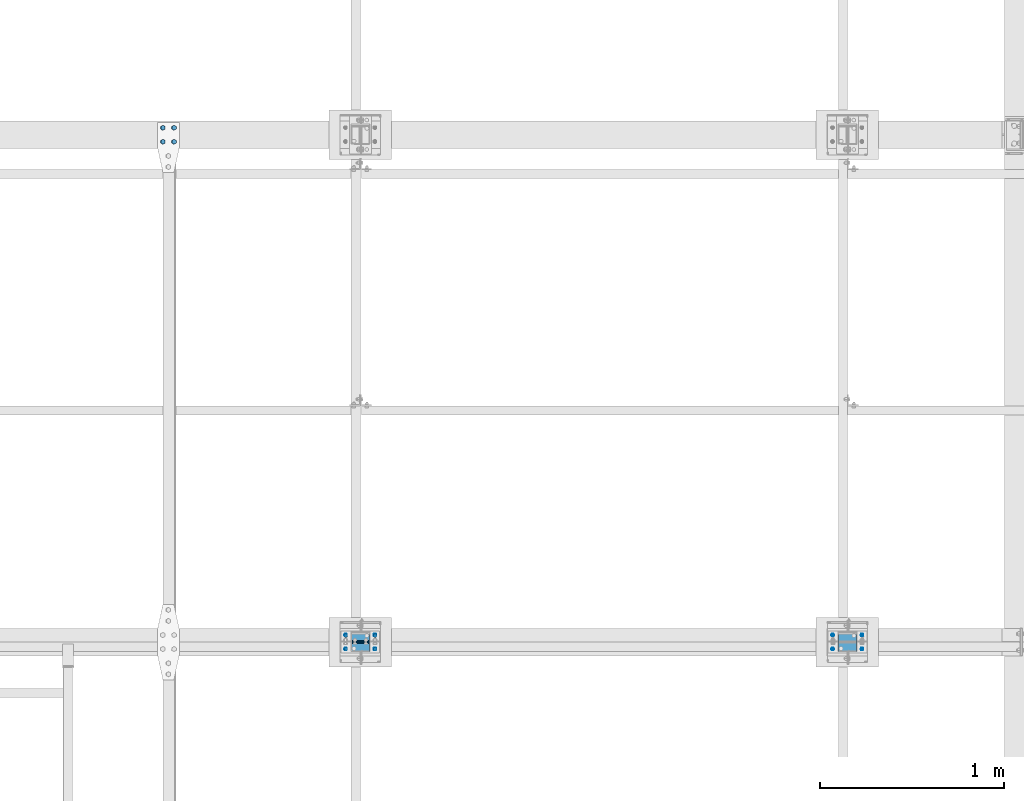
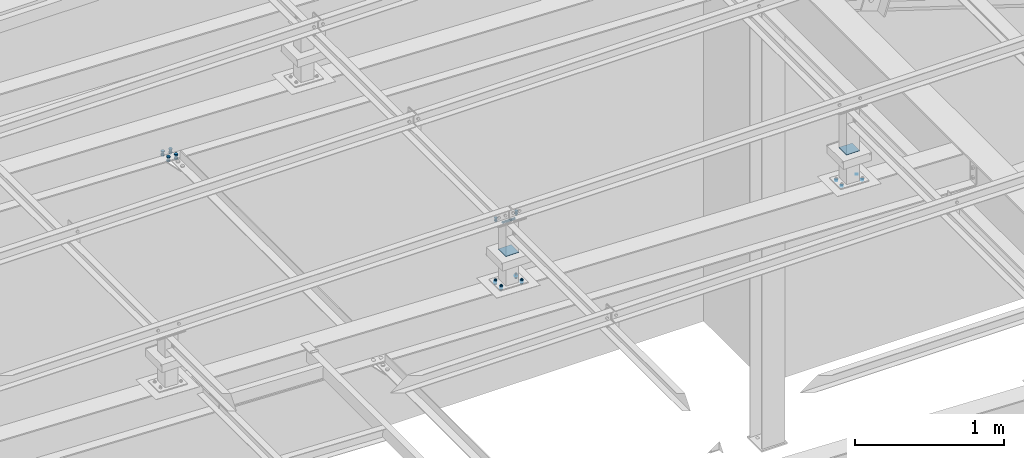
# One storey, part 214 of 3134: 8 mechanical fasteners, 6 elements without a shape of their own.
"""IFC2X3 building model written with IfcOpenShell, lengths in millimetres."""

import ifcopenshell
import ifcopenshell.guid

model = None  # the IFC model being written
_history = None  # IfcOwnerHistory: only IFC2X3 demands one
_inside = {}  # id of a spatial element -> (the spatial element, [elements in it])
_under = {}  # id of a project, library or spatial element -> (it, [spatial elements below it])
_declared = {}  # id of a project -> (the project, [libraries it declares])
_typed = {}  # id of a type object -> (the type object, [elements of that type])
_made_of = {}  # id of a material, layer set ... -> (it, [elements and type objects made of it])


def new_model(schema):
    """Start an empty IFC model of exactly this schema.

    Asked for "IFC4X3", IfcOpenShell would pick the latest addendum, in which some entities
    have other attributes; the version numbers below select the first issue.
    IFC2X3 requires an IfcOwnerHistory on every rooted entity: one is made here for all.
    """
    global model, _history
    if schema == "IFC4X3":
        model = ifcopenshell.file(schema_version=(4, 3, 0, 0))
    else:
        model = ifcopenshell.file(schema=schema)
    _inside.clear()
    _under.clear()
    _declared.clear()
    _typed.clear()
    _made_of.clear()
    _history = None
    if model.schema == "IFC2X3":
        org = make("IfcOrganization", Name="unknown")
        user = make(
            "IfcPersonAndOrganization",
            ThePerson=make("IfcPerson", FamilyName="unknown"),
            TheOrganization=org,
        )
        app = make(
            "IfcApplication",
            ApplicationDeveloper=org,
            Version="unknown",
            ApplicationFullName="unknown",
            ApplicationIdentifier="unknown",
        )
        _history = make(
            "IfcOwnerHistory",
            OwningUser=user,
            OwningApplication=app,
            ChangeAction="ADDED",
            CreationDate=0,
        )
    return model


def make(cls, **values):
    """One entity of the class cls with the attributes given. An attribute that is None is left unset."""
    return model.create_entity(
        cls, **{name: value for name, value in values.items() if value is not None}
    )


def rooted(cls, **values):
    """An entity with a GlobalId (a new one), such as an element, a storey or a relation."""
    return make(cls, GlobalId=ifcopenshell.guid.new(), OwnerHistory=_history, **values)


def si_unit(unit_type, name, prefix=None):
    """IfcSIUnit, for example si_unit("LENGTHUNIT", "METRE", prefix="MILLI")."""
    return make("IfcSIUnit", UnitType=unit_type, Prefix=prefix, Name=name)


def assignment(units):
    """IfcUnitAssignment: the units of a project."""
    return None if units is None else make("IfcUnitAssignment", Units=units)


def point(xyz):
    """IfcCartesianPoint."""
    return None if xyz is None else make("IfcCartesianPoint", Coordinates=xyz)


def direction(xyz):
    """IfcDirection."""
    return None if xyz is None else make("IfcDirection", DirectionRatios=xyz)


def frame(location, z_axis=None, x_axis=None):
    """IfcAxis2Placement3D, a coordinate frame: its origin and axes. An axis left out is left unset."""
    return make(
        "IfcAxis2Placement3D",
        Location=point(location),
        Axis=direction(z_axis),
        RefDirection=direction(x_axis),
    )


def origin_with_axes():
    """The frame at (0, 0, 0) with the z axis (0, 0, 1) and the x axis (1, 0, 0) written out."""
    return frame((0.0, 0.0, 0.0), z_axis=(0.0, 0.0, 1.0), x_axis=(1.0, 0.0, 0.0))


def place(relative_to, where):
    """IfcLocalPlacement: puts the frame where relative to a parent placement (None: the world)."""
    return make(
        "IfcLocalPlacement", PlacementRelTo=relative_to, RelativePlacement=where
    )


def context(
    kind, dimensions, precision=None, world=None, true_north=None, identifier=None
):
    """IfcGeometricRepresentationContext, for example the 3D "Model" context."""
    return make(
        "IfcGeometricRepresentationContext",
        ContextIdentifier=identifier,
        ContextType=kind,
        CoordinateSpaceDimension=dimensions,
        Precision=precision,
        WorldCoordinateSystem=world,
        TrueNorth=true_north,
    )


def subcontext(parent, identifier, kind, view, scale=None):
    """IfcGeometricRepresentationSubContext, for example "Body" below "Model"."""
    return make(
        "IfcGeometricRepresentationSubContext",
        ContextIdentifier=identifier,
        ContextType=kind,
        ParentContext=parent,
        TargetScale=scale,
        TargetView=view,
    )


def project(units=None, contexts=None):
    """IfcProject with its units and contexts."""
    return rooted(
        "IfcProject",
        Name="project",
        RepresentationContexts=contexts,
        UnitsInContext=assignment(units),
    )


def spatial(cls, under=None, at=None, **own):
    """A site, building, storey or space (cls), placed at a placement, below another one or the project."""
    s = rooted(cls, ObjectPlacement=at, **own)
    if under is not None:
        _under.setdefault(under.id(), (under, []))[1].append(s)
    return s


def faces_of(points, faces, orient=None, outer=None):
    """IfcFace entities. A face is a list of loops; a loop is a list of indices into points, from 0.

    orient and outer hold one flag for each loop. By default every Orientation is true, the
    first loop of a face is its IfcFaceOuterBound and the others are IfcFaceBound.
    """
    made = []
    for i, loops in enumerate(faces):
        bounds = []
        for j, loop in enumerate(loops):
            is_outer = j == 0 if outer is None else outer[i][j]
            bounds.append(
                make(
                    "IfcFaceOuterBound" if is_outer else "IfcFaceBound",
                    Bound=make("IfcPolyLoop", Polygon=[points[k] for k in loop]),
                    Orientation=True if orient is None else orient[i][j],
                )
            )
        made.append(make("IfcFace", Bounds=bounds))
    return made


def faceted_brep(points, faces, orient=None, outer=None, voids=None):
    """IfcFacetedBrep: a solid bounded by flat faces; with voids (closed shells), ...WithVoids."""
    shared = [point(p) for p in points]
    hull = make("IfcClosedShell", CfsFaces=faces_of(shared, faces, orient, outer))
    if voids is None:
        return make("IfcFacetedBrep", Outer=hull)
    return make(
        "IfcFacetedBrepWithVoids",
        Outer=hull,
        Voids=[
            make(cls, CfsFaces=faces_of(shared, fs, o, b)) for cls, fs, o, b in voids
        ],
    )


def shape(context_of_items, identifier, shape_type, items):
    """IfcShapeRepresentation: the items that make up one representation, for example the "Body"."""
    return make(
        "IfcShapeRepresentation",
        ContextOfItems=context_of_items,
        RepresentationIdentifier=identifier,
        RepresentationType=shape_type,
        Items=items,
    )


def source(mapping_origin, context_of_items, identifier, shape_type, items):
    """IfcRepresentationMap: a shape defined once, which mapped items show again and again."""
    return make(
        "IfcRepresentationMap",
        MappingOrigin=mapping_origin,
        MappedRepresentation=shape(context_of_items, identifier, shape_type, items),
    )


def transform(
    local_origin,
    x_axis=None,
    y_axis=None,
    z_axis=None,
    scale=None,
    scale2=None,
    scale3=None,
    uniform=True,
):
    """IfcCartesianTransformationOperator3D, or its non-uniform kind. x_axis, y_axis, z_axis: its Axis1, 2, 3."""
    if uniform:
        return make(
            "IfcCartesianTransformationOperator3D",
            Axis1=direction(x_axis),
            Axis2=direction(y_axis),
            LocalOrigin=point(local_origin),
            Scale=scale,
            Axis3=direction(z_axis),
        )
    return make(
        "IfcCartesianTransformationOperator3DnonUniform",
        Axis1=direction(x_axis),
        Axis2=direction(y_axis),
        LocalOrigin=point(local_origin),
        Scale=scale,
        Axis3=direction(z_axis),
        Scale2=scale2,
        Scale3=scale3,
    )


def mapped(mapping_source, mapping_target):
    """IfcMappedItem: shows the shape of a source again, moved by a transform."""
    return make(
        "IfcMappedItem", MappingSource=mapping_source, MappingTarget=mapping_target
    )


def material(Name=None, Category=None):
    """IfcMaterial."""
    return make("IfcMaterial", Name=Name, Category=Category)


def made_of(thing, what):
    """Note that an element or type object is made of a material, layer set ...; save() writes the relation."""
    if what is not None:
        _made_of.setdefault(what.id(), (what, []))[1].append(thing)
    return thing


def type_object(cls, material=None, **own):
    """A type object (cls), such as IfcWallType, which elements share."""
    return made_of(rooted(cls, **own), material)


def element(
    cls,
    number,
    at=None,
    inside=None,
    cuts=None,
    type_object=None,
    material=None,
    context=None,
    identifier="Body",
    shape_type=None,
    held_by="IfcProductDefinitionShape",
    body=None,
    shapes=None,
    **own,
):
    """One element of the class cls, such as IfcWall. Its Tag is "e" and its number.

    at: its placement. inside: the storey or other place that contains it. cuts: it is an
    opening in that element (IfcRelVoidsElement). A single representation is given by context,
    identifier, shape_type and body (its items); several are given by shapes. held_by: the class
    of the entity that holds the representations. save() writes the other relations.
    """
    e = rooted(cls, Tag="e%d" % number, ObjectPlacement=at, **own)
    if body is not None:
        shapes = [shape(context, identifier, shape_type, body)]
    if shapes is not None:
        e.Representation = make(held_by, Representations=shapes)
    if inside is not None:
        _inside.setdefault(inside.id(), (inside, []))[1].append(e)
    if cuts is not None:
        rooted(
            "IfcRelVoidsElement", RelatingBuildingElement=cuts, RelatedOpeningElement=e
        )
    if type_object is not None:
        _typed.setdefault(type_object.id(), (type_object, []))[1].append(e)
    return made_of(e, material)


def aggregate(whole, parts):
    """IfcRelAggregates: a whole, such as a stair, and the parts it consists of."""
    return rooted("IfcRelAggregates", RelatingObject=whole, RelatedObjects=parts)


def save(model, path):
    """Write the relations noted so far, then the file.

    IfcRelAggregates (storeys below a building ...), IfcRelContainedInSpatialStructure (elements
    in a storey), IfcRelDefinesByType, IfcRelAssociatesMaterial and IfcRelDeclares: one each for
    every whole, place, type object, material and project.
    """
    for whole, parts in _under.values():
        aggregate(whole, parts)
    for where, things in _inside.values():
        rooted(
            "IfcRelContainedInSpatialStructure",
            RelatedElements=things,
            RelatingStructure=where,
        )
    for kind, things in _typed.values():
        rooted("IfcRelDefinesByType", RelatedObjects=things, RelatingType=kind)
    for what, things in _made_of.values():
        rooted("IfcRelAssociatesMaterial", RelatedObjects=things, RelatingMaterial=what)
    for by, libraries in _declared.values():
        rooted("IfcRelDeclares", RelatingContext=by, RelatedDefinitions=libraries)
    model.write(path)


model = new_model("IFC2X3")

# Units and contexts
model_context = context("Model", 3, precision=1e-05, world=origin_with_axes())
body_context = subcontext(model_context, "Body", "Model", "MODEL_VIEW")
ifc_project = project(units=[si_unit("LENGTHUNIT", "METRE", prefix="MILLI"), si_unit("AREAUNIT", "SQUARE_METRE"), si_unit("VOLUMEUNIT", "CUBIC_METRE"), si_unit("MASSUNIT", "GRAM", prefix="KILO"), si_unit("TIMEUNIT", "SECOND"), si_unit("PLANEANGLEUNIT", "RADIAN"), si_unit("SOLIDANGLEUNIT", "STERADIAN"), si_unit("THERMODYNAMICTEMPERATUREUNIT", "DEGREE_CELSIUS"), si_unit("LUMINOUSINTENSITYUNIT", "LUMEN")], contexts=[model_context])

# Site, building, storey
site_placement = place(None, origin_with_axes())
site = spatial("IfcSite", under=ifc_project, at=site_placement, CompositionType="ELEMENT")
building_placement = place(site_placement, origin_with_axes())
building = spatial("IfcBuilding", under=site, at=building_placement, Name="Undefined", CompositionType="ELEMENT")
storey_placement = place(building_placement, origin_with_axes())
storey = spatial("IfcBuildingStorey", under=building, at=storey_placement, Name="Undefined", CompositionType="ELEMENT", Elevation=0.0)

# Assembly, mechanical fastener
assembly_1_placement = place(storey_placement, origin_with_axes())
assembly_1 = element("IfcElementAssembly", 1, at=assembly_1_placement, inside=storey, AssemblyPlace="NOTDEFINED", PredefinedType="RIGID_FRAME")
ifc_material_1 = material(Name="8.8")
mechanical_fastener_type = type_object("IfcMechanicalFastenerType", Name="Bolt assembly")
shared_shape_1 = source(origin_with_axes(), body_context, "Body", "Brep", [
    faceted_brep([(10.9696551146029, -14.0, 0.0), (5.48482755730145, -14.0, 9.5), (-5.48482755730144, -14.0, 9.5), (-10.9696551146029, -14.0, 1.34339530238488e-15), (-5.48482755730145, -14.0, -9.5), (5.48482755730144, -14.0, -9.50000000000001), (5.48482755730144, -6.0, -9.50000000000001), (-5.48482755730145, -6.0, -9.5), (-10.9696551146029, -6.0, 1.34339530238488e-15), (-5.48482755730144, -6.0, 9.5), (5.48482755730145, -6.0, 9.5), (10.9696551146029, -6.0, 0.0), (6.0, -6.0, 0.0), (5.19615242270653, -6.0, 3.00000000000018), (2.99999999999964, -6.0, 5.19615242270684), (-6.21801588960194e-13, -6.0, 6.0), (-3.00000000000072, -6.0, 5.19615242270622), (-5.19615242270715, -6.0, 2.9999999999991), (-6.0, -6.0, -1.24360317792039e-12), (-5.19615242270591, -6.0, -3.00000000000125), (-2.99999999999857, -6.0, -5.19615242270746), (1.85874342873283e-12, -6.0, -6.0), (3.00000000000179, -6.0, -5.1961524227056), (5.19615242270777, -6.0, -2.99999999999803), (5.19615242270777, 24.0, -2.99999999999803), (3.00000000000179, 24.0, -5.1961524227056), (1.85874342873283e-12, 24.0, -6.0), (-2.99999999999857, 24.0, -5.19615242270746), (-5.19615242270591, 24.0, -3.00000000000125), (-6.0, 24.0, -1.24360317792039e-12), (-5.19615242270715, 24.0, 2.9999999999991), (-3.00000000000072, 24.0, 5.19615242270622), (-6.21801588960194e-13, 24.0, 6.0), (2.99999999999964, 24.0, 5.19615242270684), (5.19615242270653, 24.0, 3.00000000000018), (6.0, 24.0, 0.0), (10.9696551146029, 6.00000000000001, 0.0), (5.48482755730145, 6.00000000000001, 9.5), (-5.48482755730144, 6.00000000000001, 9.5), (-10.9696551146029, 6.00000000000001, 1.34339530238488e-15), (-5.48482755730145, 6.00000000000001, -9.5), (5.48482755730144, 6.00000000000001, -9.50000000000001), (5.48482755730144, 16.0, -9.50000000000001), (-5.48482755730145, 16.0, -9.5), (-10.9696551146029, 16.0, 1.34339530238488e-15), (-5.48482755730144, 16.0, 9.5), (5.48482755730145, 16.0, 9.5), (10.9696551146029, 16.0, 0.0)], [[[0, 1, 2, 3, 4, 5]], [[6, 7, 8, 9, 10, 11]], [[0, 11, 10, 1]], [[1, 10, 9, 2]], [[2, 9, 8, 3]], [[3, 8, 7, 4]], [[4, 7, 6, 5]], [[5, 6, 11, 0]], [[12, 13, 14, 15, 16, 17, 18, 19, 20, 21, 22, 23]], [[24, 25, 26, 27, 28, 29, 30, 31, 32, 33, 34, 35]], [[12, 35, 34, 13]], [[13, 34, 33, 14]], [[14, 33, 32, 15]], [[15, 32, 31, 16]], [[16, 31, 30, 17]], [[17, 30, 29, 18]], [[18, 29, 28, 19]], [[19, 28, 27, 20]], [[20, 27, 26, 21]], [[21, 26, 25, 22]], [[22, 25, 24, 23]], [[23, 24, 35, 12]], [[36, 37, 38, 39, 40, 41]], [[42, 43, 44, 45, 46, 47]], [[36, 47, 46, 37]], [[37, 46, 45, 38]], [[38, 45, 44, 39]], [[39, 44, 43, 40]], [[40, 43, 42, 41]], [[41, 42, 47, 36]]]),
    faceted_brep([(7.0, -0.1, 0.0), (6.06217782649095, -0.1, 3.50000000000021), (3.49999999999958, -0.1, 6.06217782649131), (-7.25435187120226e-13, -0.1, 7.0), (-3.50000000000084, -0.1, 6.06217782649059), (-6.06217782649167, -0.1, 3.49999999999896), (-7.0, -0.1, -1.45087037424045e-12), (-6.06217782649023, -0.1, -3.50000000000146), (-3.49999999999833, -0.1, -6.06217782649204), (2.1685340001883e-12, -0.1, -7.0), (3.50000000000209, -0.1, -6.06217782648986), (6.0621778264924, -0.1, -3.4999999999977), (6.0621778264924, 6.00000000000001, -3.4999999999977), (3.50000000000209, 6.00000000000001, -6.06217782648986), (2.1685340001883e-12, 6.00000000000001, -7.0), (-3.49999999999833, 6.00000000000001, -6.06217782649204), (-6.06217782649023, 6.00000000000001, -3.50000000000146), (-7.0, 6.00000000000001, -1.45087037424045e-12), (-6.06217782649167, 6.00000000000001, 3.49999999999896), (-3.50000000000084, 6.00000000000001, 6.06217782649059), (-7.25435187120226e-13, 6.00000000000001, 7.0), (3.49999999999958, 6.00000000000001, 6.06217782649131), (6.06217782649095, 6.00000000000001, 3.50000000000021), (7.0, 6.00000000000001, 0.0), (7.0, -5.9, 0.0), (6.06217782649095, -5.9, 3.50000000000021), (3.49999999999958, -5.9, 6.06217782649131), (-7.25435187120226e-13, -5.9, 7.0), (-3.50000000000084, -5.9, 6.06217782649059), (-6.06217782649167, -5.9, 3.49999999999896), (-7.0, -5.9, -1.45087037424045e-12), (-6.06217782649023, -5.9, -3.50000000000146), (-3.49999999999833, -5.9, -6.06217782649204), (2.1685340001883e-12, -5.9, -7.0), (3.50000000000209, -5.9, -6.06217782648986), (6.0621778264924, -5.9, -3.4999999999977), (6.0621778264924, 0.0999999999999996, -3.4999999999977), (3.50000000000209, 0.0999999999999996, -6.06217782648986), (2.1685340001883e-12, 0.0999999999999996, -7.0), (-3.49999999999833, 0.0999999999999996, -6.06217782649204), (-6.06217782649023, 0.0999999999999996, -3.50000000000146), (-7.0, 0.0999999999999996, -1.45087037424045e-12), (-6.06217782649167, 0.0999999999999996, 3.49999999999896), (-3.50000000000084, 0.0999999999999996, 6.06217782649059), (-7.25435187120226e-13, 0.0999999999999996, 7.0), (3.49999999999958, 0.0999999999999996, 6.06217782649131), (6.06217782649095, 0.0999999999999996, 3.50000000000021), (7.0, 0.0999999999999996, 0.0)], [[[0, 1, 2, 3, 4, 5, 6, 7, 8, 9, 10, 11]], [[12, 13, 14, 15, 16, 17, 18, 19, 20, 21, 22, 23]], [[0, 23, 22, 1]], [[1, 22, 21, 2]], [[2, 21, 20, 3]], [[3, 20, 19, 4]], [[4, 19, 18, 5]], [[5, 18, 17, 6]], [[6, 17, 16, 7]], [[7, 16, 15, 8]], [[8, 15, 14, 9]], [[9, 14, 13, 10]], [[10, 13, 12, 11]], [[11, 12, 23, 0]], [[24, 25, 26, 27, 28, 29, 30, 31, 32, 33, 34, 35]], [[36, 37, 38, 39, 40, 41, 42, 43, 44, 45, 46, 47]], [[24, 47, 46, 25]], [[25, 46, 45, 26]], [[26, 45, 44, 27]], [[27, 44, 43, 28]], [[28, 43, 42, 29]], [[29, 42, 41, 30]], [[30, 41, 40, 31]], [[31, 40, 39, 32]], [[32, 39, 38, 33]], [[33, 38, 37, 34]], [[34, 37, 36, 35]], [[35, 36, 47, 24]]]),
])
mechanical_fastener_1_placement = place(assembly_1_placement, frame((5691.67, 45801.66, 4365.0), z_axis=(1.0, 0.0, 0.0), x_axis=(0.0, -1.0, 0.0)))
mechanical_fastener_1 = element("IfcMechanicalFastener", 2, at=mechanical_fastener_1_placement, type_object=mechanical_fastener_type, material=ifc_material_1, Name="Bolt assembly", NominalDiameter=12.0, NominalLength=30.0, context=body_context, shape_type="MappedRepresentation", body=[
    mapped(shared_shape_1, transform((0.0, -5.32963895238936e-10, -79.9999999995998))),
    mapped(shared_shape_1, transform((0.0, 5.3114490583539e-10, 79.9999999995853))),
])
aggregate(assembly_1, [mechanical_fastener_1])

assembly_2_placement = place(storey_placement, origin_with_axes())
assembly_2 = element("IfcElementAssembly", 3, at=assembly_2_placement, inside=storey, Name="300", AssemblyPlace="NOTDEFINED", PredefinedType="RIGID_FRAME")
shared_shape_2 = source(origin_with_axes(), body_context, "Body", "Brep", [
    faceted_brep([(13.856406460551, -23.2000817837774, 0.0), (6.92820323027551, -23.2000817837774, 12.0), (-6.92820323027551, -23.2000817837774, 12.0), (-13.856406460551, -23.2000817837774, 1.69692038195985e-15), (-6.92820323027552, -23.2000817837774, -12.0), (6.9282032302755, -23.2000817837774, -12.0), (6.9282032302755, -13.2000817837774, -12.0), (-6.92820323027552, -13.2000817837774, -12.0), (-13.856406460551, -13.2000817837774, 1.69692038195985e-15), (-6.92820323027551, -13.2000817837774, 12.0), (6.92820323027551, -13.2000817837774, 12.0), (13.856406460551, -13.2000817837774, 0.0), (8.0, -13.2000817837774, 0.0), (6.92820323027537, -13.2000817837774, 4.00000000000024), (3.99999999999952, -13.2000817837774, 6.92820323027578), (-8.29068785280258e-13, -13.2000817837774, 8.0), (-4.00000000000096, -13.2000817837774, 6.92820323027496), (-6.9282032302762, -13.2000817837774, 3.99999999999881), (-8.0, -13.2000817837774, -1.65813757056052e-12), (-6.92820323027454, -13.2000817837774, -4.00000000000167), (-3.99999999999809, -13.2000817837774, -6.92820323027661), (2.47832457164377e-12, -13.2000817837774, -8.0), (4.00000000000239, -13.2000817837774, -6.92820323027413), (6.92820323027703, -13.2000817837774, -3.99999999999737), (6.92820323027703, 21.7999182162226, -3.99999999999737), (4.00000000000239, 21.7999182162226, -6.92820323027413), (2.47832457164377e-12, 21.7999182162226, -8.0), (-3.99999999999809, 21.7999182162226, -6.92820323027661), (-6.92820323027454, 21.7999182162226, -4.00000000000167), (-8.0, 21.7999182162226, -1.65813757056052e-12), (-6.9282032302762, 21.7999182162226, 3.99999999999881), (-4.00000000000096, 21.7999182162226, 6.92820323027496), (-8.29068785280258e-13, 21.7999182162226, 8.0), (3.99999999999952, 21.7999182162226, 6.92820323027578), (6.92820323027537, 21.7999182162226, 4.00000000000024), (8.0, 21.7999182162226, 0.0), (13.856406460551, 3.99999999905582, 0.0), (6.92820323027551, 3.99999999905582, 12.0), (-6.92820323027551, 3.99999999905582, 12.0), (-13.856406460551, 3.99999999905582, 1.69692038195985e-15), (-6.92820323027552, 3.99999999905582, -12.0), (6.9282032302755, 3.99999999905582, -12.0), (6.9282032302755, 16.9999999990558, -12.0), (-6.92820323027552, 16.9999999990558, -12.0), (-13.856406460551, 16.9999999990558, 1.69692038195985e-15), (-6.92820323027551, 16.9999999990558, 12.0), (6.92820323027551, 16.9999999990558, 12.0), (13.856406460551, 16.9999999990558, 0.0)], [[[0, 1, 2, 3, 4, 5]], [[6, 7, 8, 9, 10, 11]], [[0, 11, 10, 1]], [[1, 10, 9, 2]], [[2, 9, 8, 3]], [[3, 8, 7, 4]], [[4, 7, 6, 5]], [[5, 6, 11, 0]], [[12, 13, 14, 15, 16, 17, 18, 19, 20, 21, 22, 23]], [[24, 25, 26, 27, 28, 29, 30, 31, 32, 33, 34, 35]], [[12, 35, 34, 13]], [[13, 34, 33, 14]], [[14, 33, 32, 15]], [[15, 32, 31, 16]], [[16, 31, 30, 17]], [[17, 30, 29, 18]], [[18, 29, 28, 19]], [[19, 28, 27, 20]], [[20, 27, 26, 21]], [[21, 26, 25, 22]], [[22, 25, 24, 23]], [[23, 24, 35, 12]], [[36, 37, 38, 39, 40, 41]], [[42, 43, 44, 45, 46, 47]], [[36, 47, 46, 37]], [[37, 46, 45, 38]], [[38, 45, 44, 39]], [[39, 44, 43, 40]], [[40, 43, 42, 41]], [[41, 42, 47, 36]]]),
    faceted_brep([(9.0, -4.10000000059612, 0.0), (7.79422863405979, -4.10000000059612, 4.50000000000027), (4.49999999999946, -4.10000000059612, 7.79422863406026), (-9.3270238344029e-13, -4.10000000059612, 9.0), (-4.50000000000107, -4.10000000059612, 7.79422863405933), (-7.79422863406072, -4.10000000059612, 4.49999999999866), (-9.0, -4.10000000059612, -1.86540476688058e-12), (-7.79422863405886, -4.10000000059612, -4.50000000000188), (-4.49999999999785, -4.10000000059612, -7.79422863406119), (2.78811514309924e-12, -4.10000000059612, -9.0), (4.50000000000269, -4.10000000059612, -7.7942286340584), (7.79422863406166, -4.10000000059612, -4.49999999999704), (7.79422863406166, 4.00000375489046, -4.49999999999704), (4.50000000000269, 4.00000375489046, -7.7942286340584), (2.78811514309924e-12, 4.00000375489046, -9.0), (-4.49999999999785, 4.00000375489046, -7.79422863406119), (-7.79422863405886, 4.00000375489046, -4.50000000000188), (-9.0, 4.00000375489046, -1.86540476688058e-12), (-7.79422863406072, 4.00000375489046, 4.49999999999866), (-4.50000000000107, 4.00000375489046, 7.79422863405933), (-9.3270238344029e-13, 4.00000375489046, 9.0), (4.49999999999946, 4.00000375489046, 7.79422863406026), (7.79422863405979, 4.00000375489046, 4.50000000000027), (9.0, 4.00000375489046, 0.0), (9.0, -13.1000817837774, 0.0), (7.79422863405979, -13.1000817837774, 4.50000000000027), (4.49999999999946, -13.1000817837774, 7.79422863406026), (-9.3270238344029e-13, -13.1000817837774, 9.0), (-4.50000000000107, -13.1000817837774, 7.79422863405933), (-7.79422863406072, -13.1000817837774, 4.49999999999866), (-9.0, -13.1000817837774, -1.86540476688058e-12), (-7.79422863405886, -13.1000817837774, -4.50000000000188), (-4.49999999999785, -13.1000817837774, -7.79422863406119), (2.78811514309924e-12, -13.1000817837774, -9.0), (4.50000000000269, -13.1000817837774, -7.7942286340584), (7.79422863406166, -13.1000817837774, -4.49999999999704), (7.79422863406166, -3.90008197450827, -4.49999999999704), (4.50000000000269, -3.90008197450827, -7.7942286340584), (2.78811514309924e-12, -3.90008197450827, -9.0), (-4.49999999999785, -3.90008197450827, -7.79422863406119), (-7.79422863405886, -3.90008197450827, -4.50000000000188), (-9.0, -3.90008197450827, -1.86540476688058e-12), (-7.79422863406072, -3.90008197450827, 4.49999999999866), (-4.50000000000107, -3.90008197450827, 7.79422863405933), (-9.3270238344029e-13, -3.90008197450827, 9.0), (4.49999999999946, -3.90008197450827, 7.79422863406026), (7.79422863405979, -3.90008197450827, 4.50000000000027), (9.0, -3.90008197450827, 0.0)], [[[0, 1, 2, 3, 4, 5, 6, 7, 8, 9, 10, 11]], [[12, 13, 14, 15, 16, 17, 18, 19, 20, 21, 22, 23]], [[0, 23, 22, 1]], [[1, 22, 21, 2]], [[2, 21, 20, 3]], [[3, 20, 19, 4]], [[4, 19, 18, 5]], [[5, 18, 17, 6]], [[6, 17, 16, 7]], [[7, 16, 15, 8]], [[8, 15, 14, 9]], [[9, 14, 13, 10]], [[10, 13, 12, 11]], [[11, 12, 23, 0]], [[24, 25, 26, 27, 28, 29, 30, 31, 32, 33, 34, 35]], [[36, 37, 38, 39, 40, 41, 42, 43, 44, 45, 46, 47]], [[24, 47, 46, 25]], [[25, 46, 45, 26]], [[26, 45, 44, 27]], [[27, 44, 43, 28]], [[28, 43, 42, 29]], [[29, 42, 41, 30]], [[30, 41, 40, 31]], [[31, 40, 39, 32]], [[32, 39, 38, 33]], [[33, 38, 37, 34]], [[34, 37, 36, 35]], [[35, 36, 47, 24]]]),
])
mechanical_fastener_2_placement = place(assembly_2_placement, frame((4647.50483518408, 48487.0, 3576.15051901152), z_axis=(-0.999388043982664, 0.0, 0.0349791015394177), x_axis=(0.0, 1.0, 0.0)))
mechanical_fastener_2 = element("IfcMechanicalFastener", 4, at=mechanical_fastener_2_placement, type_object=mechanical_fastener_type, material=ifc_material_1, Name="Bolt assembly", NominalDiameter=16.0, NominalLength=35.0, context=body_context, shape_type="MappedRepresentation", body=[
    mapped(shared_shape_2, transform((0.0, 4.54747350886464e-13, -30.0000000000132))),
    mapped(shared_shape_2, transform((76.0, -2.00088834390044e-10, -29.9999999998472))),
    mapped(shared_shape_2, transform((0.0, 4.54747350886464e-13, 30.0000000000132))),
    mapped(shared_shape_2, transform((76.0, 1.98269844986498e-10, 29.9999999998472))),
])
aggregate(assembly_2, [mechanical_fastener_2])

assembly_3_placement = place(storey_placement, origin_with_axes())
assembly_3 = element("IfcElementAssembly", 5, at=assembly_3_placement, inside=storey, AssemblyPlace="NOTDEFINED", PredefinedType="RIGID_FRAME")
shared_shape_3 = source(origin_with_axes(), body_context, "Body", "Brep", [
    faceted_brep([(10.9696551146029, -4.18280906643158, 0.0), (5.48482755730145, -4.18280906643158, 9.5), (-5.48482755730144, -4.18280906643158, 9.5), (-10.9696551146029, -4.18280906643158, 1.34339530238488e-15), (-5.48482755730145, -4.18280906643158, -9.5), (5.48482755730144, -4.18280906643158, -9.50000000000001), (5.48482755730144, 3.81719093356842, -9.50000000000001), (-5.48482755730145, 3.81719093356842, -9.5), (-10.9696551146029, 3.81719093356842, 1.34339530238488e-15), (-5.48482755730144, 3.81719093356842, 9.5), (5.48482755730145, 3.81719093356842, 9.5), (10.9696551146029, 3.81719093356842, 0.0), (6.0, 3.81719093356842, 0.0), (5.19615242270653, 3.81719093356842, 3.00000000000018), (2.99999999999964, 3.81719093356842, 5.19615242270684), (-6.21801588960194e-13, 3.81719093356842, 6.0), (-3.00000000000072, 3.81719093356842, 5.19615242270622), (-5.19615242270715, 3.81719093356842, 2.9999999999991), (-6.0, 3.81719093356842, -1.24360317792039e-12), (-5.19615242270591, 3.81719093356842, -3.00000000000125), (-2.99999999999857, 3.81719093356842, -5.19615242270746), (1.85874342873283e-12, 3.81719093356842, -6.0), (3.00000000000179, 3.81719093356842, -5.1961524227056), (5.19615242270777, 3.81719093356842, -2.99999999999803), (5.19615242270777, 38.8171909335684, -2.99999999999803), (3.00000000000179, 38.8171909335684, -5.1961524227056), (1.85874342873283e-12, 38.8171909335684, -6.0), (-2.99999999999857, 38.8171909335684, -5.19615242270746), (-5.19615242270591, 38.8171909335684, -3.00000000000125), (-6.0, 38.8171909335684, -1.24360317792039e-12), (-5.19615242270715, 38.8171909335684, 2.9999999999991), (-3.00000000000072, 38.8171909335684, 5.19615242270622), (-6.21801588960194e-13, 38.8171909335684, 6.0), (2.99999999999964, 38.8171909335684, 5.19615242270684), (5.19615242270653, 38.8171909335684, 3.00000000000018), (6.0, 38.8171909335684, 0.0), (10.9696551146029, 23.0139082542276, 0.0), (5.48482755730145, 23.0139082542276, 9.5), (-5.48482755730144, 23.0139082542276, 9.5), (-10.9696551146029, 23.0139082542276, 1.34339530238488e-15), (-5.48482755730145, 23.0139082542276, -9.5), (5.48482755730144, 23.0139082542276, -9.50000000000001), (5.48482755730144, 33.0139082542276, -9.50000000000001), (-5.48482755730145, 33.0139082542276, -9.5), (-10.9696551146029, 33.0139082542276, 1.34339530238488e-15), (-5.48482755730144, 33.0139082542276, 9.5), (5.48482755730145, 33.0139082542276, 9.5), (10.9696551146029, 33.0139082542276, 0.0)], [[[0, 1, 2, 3, 4, 5]], [[6, 7, 8, 9, 10, 11]], [[0, 11, 10, 1]], [[1, 10, 9, 2]], [[2, 9, 8, 3]], [[3, 8, 7, 4]], [[4, 7, 6, 5]], [[5, 6, 11, 0]], [[12, 13, 14, 15, 16, 17, 18, 19, 20, 21, 22, 23]], [[24, 25, 26, 27, 28, 29, 30, 31, 32, 33, 34, 35]], [[12, 35, 34, 13]], [[13, 34, 33, 14]], [[14, 33, 32, 15]], [[15, 32, 31, 16]], [[16, 31, 30, 17]], [[17, 30, 29, 18]], [[18, 29, 28, 19]], [[19, 28, 27, 20]], [[20, 27, 26, 21]], [[21, 26, 25, 22]], [[22, 25, 24, 23]], [[23, 24, 35, 12]], [[36, 37, 38, 39, 40, 41]], [[42, 43, 44, 45, 46, 47]], [[36, 47, 46, 37]], [[37, 46, 45, 38]], [[38, 45, 44, 39]], [[39, 44, 43, 40]], [[40, 43, 42, 41]], [[41, 42, 47, 36]]]),
    faceted_brep([(7.0, 3.91719093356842, 0.0), (6.06217782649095, 3.91719093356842, 3.50000000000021), (3.49999999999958, 3.91719093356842, 6.06217782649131), (-7.25435187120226e-13, 3.91719093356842, 7.0), (-3.50000000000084, 3.91719093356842, 6.06217782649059), (-6.06217782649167, 3.91719093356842, 3.49999999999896), (-7.0, 3.91719093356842, -1.45087037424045e-12), (-6.06217782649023, 3.91719093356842, -3.50000000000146), (-3.49999999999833, 3.91719093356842, -6.06217782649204), (2.1685340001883e-12, 3.91719093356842, -7.0), (3.50000000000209, 3.91719093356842, -6.06217782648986), (6.0621778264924, 3.91719093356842, -3.4999999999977), (6.0621778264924, 13.1171907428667, -3.4999999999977), (3.50000000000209, 13.1171907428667, -6.06217782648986), (2.1685340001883e-12, 13.1171907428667, -7.0), (-3.49999999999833, 13.1171907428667, -6.06217782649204), (-6.06217782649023, 13.1171907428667, -3.50000000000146), (-7.0, 13.1171907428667, -1.45087037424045e-12), (-6.06217782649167, 13.1171907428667, 3.49999999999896), (-3.50000000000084, 13.1171907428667, 6.06217782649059), (-7.25435187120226e-13, 13.1171907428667, 7.0), (3.49999999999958, 13.1171907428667, 6.06217782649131), (6.06217782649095, 13.1171907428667, 3.50000000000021), (7.0, 13.1171907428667, 0.0), (7.0, 14.9139082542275, 0.0), (6.06217782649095, 14.9139082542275, 3.50000000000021), (3.49999999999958, 14.9139082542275, 6.06217782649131), (-7.25435187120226e-13, 14.9139082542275, 7.0), (-3.50000000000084, 14.9139082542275, 6.06217782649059), (-6.06217782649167, 14.9139082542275, 3.49999999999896), (-7.0, 14.9139082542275, -1.45087037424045e-12), (-6.06217782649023, 14.9139082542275, -3.50000000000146), (-3.49999999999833, 14.9139082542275, -6.06217782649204), (2.1685340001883e-12, 14.9139082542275, -7.0), (3.50000000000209, 14.9139082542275, -6.06217782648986), (6.0621778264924, 14.9139082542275, -3.4999999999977), (6.0621778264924, 23.0139082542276, -3.4999999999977), (3.50000000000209, 23.0139082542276, -6.06217782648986), (2.1685340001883e-12, 23.0139082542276, -7.0), (-3.49999999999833, 23.0139082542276, -6.06217782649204), (-6.06217782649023, 23.0139082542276, -3.50000000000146), (-7.0, 23.0139082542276, -1.45087037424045e-12), (-6.06217782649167, 23.0139082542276, 3.49999999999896), (-3.50000000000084, 23.0139082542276, 6.06217782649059), (-7.25435187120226e-13, 23.0139082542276, 7.0), (3.49999999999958, 23.0139082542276, 6.06217782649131), (6.06217782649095, 23.0139082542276, 3.50000000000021), (7.0, 23.0139082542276, 0.0)], [[[0, 1, 2, 3, 4, 5, 6, 7, 8, 9, 10, 11]], [[12, 13, 14, 15, 16, 17, 18, 19, 20, 21, 22, 23]], [[0, 23, 22, 1]], [[1, 22, 21, 2]], [[2, 21, 20, 3]], [[3, 20, 19, 4]], [[4, 19, 18, 5]], [[5, 18, 17, 6]], [[6, 17, 16, 7]], [[7, 16, 15, 8]], [[8, 15, 14, 9]], [[9, 14, 13, 10]], [[10, 13, 12, 11]], [[11, 12, 23, 0]], [[24, 25, 26, 27, 28, 29, 30, 31, 32, 33, 34, 35]], [[36, 37, 38, 39, 40, 41, 42, 43, 44, 45, 46, 47]], [[24, 47, 46, 25]], [[25, 46, 45, 26]], [[26, 45, 44, 27]], [[27, 44, 43, 28]], [[28, 43, 42, 29]], [[29, 42, 41, 30]], [[30, 41, 40, 31]], [[31, 40, 39, 32]], [[32, 39, 38, 33]], [[33, 38, 37, 34]], [[34, 37, 36, 35]], [[35, 36, 47, 24]]]),
])
mechanical_fastener_3_placement = place(assembly_3_placement, frame((5690.86474073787, 45804.6599999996, 3827.79222028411), z_axis=(-0.999387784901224, 0.0, 0.0349865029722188), x_axis=(0.0, -1.0, 0.0)))
mechanical_fastener_3 = element("IfcMechanicalFastener", 6, at=mechanical_fastener_3_placement, type_object=mechanical_fastener_type, material=ifc_material_1, Name="Bolt assembly", NominalDiameter=12.0, NominalLength=35.0, context=body_context, shape_type="MappedRepresentation", body=[
    mapped(shared_shape_3, transform((0.0, -5.32963895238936e-10, -79.9999999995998))),
    mapped(shared_shape_3, transform((76.0, -5.32963895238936e-10, -79.9999999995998))),
    mapped(shared_shape_3, transform((0.0, 5.3114490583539e-10, 79.9999999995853))),
    mapped(shared_shape_3, transform((76.0, 5.3114490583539e-10, 79.9999999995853))),
])

assembly_4_placement = place(storey_placement, origin_with_axes())
assembly_4 = element("IfcElementAssembly", 7, at=assembly_4_placement, inside=storey, AssemblyPlace="NOTDEFINED", PredefinedType="RIGID_FRAME")
shared_shape_4 = source(origin_with_axes(), body_context, "Body", "Brep", [
    faceted_brep([(7.0, 13.0000253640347, 0.0), (6.06217782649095, 13.0000253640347, 3.50000000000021), (3.49999999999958, 13.0000253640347, 6.06217782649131), (-7.25435187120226e-13, 13.0000253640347, 7.0), (-3.50000000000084, 13.0000253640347, 6.06217782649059), (-6.06217782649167, 13.0000253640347, 3.49999999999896), (-7.0, 13.0000253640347, -1.45087037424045e-12), (-6.06217782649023, 13.0000253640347, -3.50000000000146), (-3.49999999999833, 13.0000253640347, -6.06217782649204), (2.1685340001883e-12, 13.0000253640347, -7.0), (3.50000000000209, 13.0000253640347, -6.06217782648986), (6.0621778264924, 13.0000253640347, -3.4999999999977), (6.0621778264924, 15.0999999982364, -3.4999999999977), (3.50000000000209, 15.0999999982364, -6.06217782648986), (2.1685340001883e-12, 15.0999999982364, -7.0), (-3.49999999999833, 15.0999999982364, -6.06217782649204), (-6.06217782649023, 15.0999999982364, -3.50000000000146), (-7.0, 15.0999999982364, -1.45087037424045e-12), (-6.06217782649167, 15.0999999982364, 3.49999999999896), (-3.50000000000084, 15.0999999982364, 6.06217782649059), (-7.25435187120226e-13, 15.0999999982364, 7.0), (3.49999999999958, 15.0999999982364, 6.06217782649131), (6.06217782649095, 15.0999999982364, 3.50000000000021), (7.0, 15.0999999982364, 0.0)], [[[0, 1, 2, 3, 4, 5, 6, 7, 8, 9, 10, 11]], [[12, 13, 14, 15, 16, 17, 18, 19, 20, 21, 22, 23]], [[0, 23, 22, 1]], [[1, 22, 21, 2]], [[2, 21, 20, 3]], [[3, 20, 19, 4]], [[4, 19, 18, 5]], [[5, 18, 17, 6]], [[6, 17, 16, 7]], [[7, 16, 15, 8]], [[8, 15, 14, 9]], [[9, 14, 13, 10]], [[10, 13, 12, 11]], [[11, 12, 23, 0]]]),
])
mechanical_fastener_4_placement = place(assembly_4_placement, frame((8339.1931765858, 45804.6599999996, 3735.10000668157), z_axis=(-0.999387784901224, 0.0, 0.0349865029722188), x_axis=(0.0, -1.0, 0.0)))
mechanical_fastener_4 = element("IfcMechanicalFastener", 8, at=mechanical_fastener_4_placement, type_object=mechanical_fastener_type, material=ifc_material_1, Name="Bolt assembly", NominalDiameter=12.0, NominalLength=2.0, context=body_context, shape_type="MappedRepresentation", body=[
    mapped(shared_shape_4, transform((0.0, -5.32963895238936e-10, -79.9999999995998))),
    mapped(shared_shape_4, transform((76.0, -5.32963895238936e-10, -79.9999999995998))),
    mapped(shared_shape_4, transform((0.0, 5.3114490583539e-10, 79.9999999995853))),
    mapped(shared_shape_4, transform((76.0, 5.3114490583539e-10, 79.9999999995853))),
])
aggregate(assembly_4, [mechanical_fastener_4])

assembly_5_placement = place(storey_placement, origin_with_axes())
assembly_5 = element("IfcElementAssembly", 9, at=assembly_5_placement, inside=storey, AssemblyPlace="NOTDEFINED", PredefinedType="RIGID_FRAME")
mechanical_fastener_5_placement = place(assembly_5_placement, frame((5690.86474073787, 45804.6599999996, 3827.79222028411), z_axis=(-0.999387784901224, 0.0, 0.0349865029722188), x_axis=(0.0, -1.0, 0.0)))
mechanical_fastener_5 = element("IfcMechanicalFastener", 10, at=mechanical_fastener_5_placement, type_object=mechanical_fastener_type, material=ifc_material_1, Name="Bolt assembly", NominalDiameter=12.0, NominalLength=2.0, context=body_context, shape_type="MappedRepresentation", body=[
    mapped(shared_shape_4, transform((0.0, -5.32963895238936e-10, -79.9999999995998))),
    mapped(shared_shape_4, transform((76.0, -5.32963895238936e-10, -79.9999999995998))),
    mapped(shared_shape_4, transform((0.0, 5.3114490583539e-10, 79.9999999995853))),
    mapped(shared_shape_4, transform((76.0, 5.3114490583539e-10, 79.9999999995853))),
])
aggregate(assembly_5, [mechanical_fastener_5])

# Mechanical fastener
shared_shape_5 = source(origin_with_axes(), body_context, "Body", "Brep", [
    faceted_brep([(9.0, -50.0, 0.0), (7.79422863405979, -50.0, 4.50000000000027), (4.49999999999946, -50.0, 7.79422863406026), (-9.3270238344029e-13, -50.0, 9.0), (-4.50000000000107, -50.0, 7.79422863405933), (-7.79422863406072, -50.0, 4.49999999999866), (-9.0, -50.0, -1.86540476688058e-12), (-7.79422863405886, -50.0, -4.50000000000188), (-4.49999999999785, -50.0, -7.79422863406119), (2.78811514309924e-12, -50.0, -9.0), (4.50000000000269, -50.0, -7.7942286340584), (7.79422863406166, -50.0, -4.49999999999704), (7.79422863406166, 50.1, -4.49999999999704), (4.50000000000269, 50.1, -7.7942286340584), (2.78811514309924e-12, 50.1, -9.0), (-4.49999999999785, 50.1, -7.79422863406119), (-7.79422863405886, 50.1, -4.50000000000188), (-9.0, 50.1, -1.86540476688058e-12), (-7.79422863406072, 50.1, 4.49999999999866), (-4.50000000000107, 50.1, 7.79422863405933), (-9.3270238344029e-13, 50.1, 9.0), (4.49999999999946, 50.1, 7.79422863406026), (7.79422863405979, 50.1, 4.50000000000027), (9.0, 50.1, 0.0)], [[[0, 1, 2, 3, 4, 5, 6, 7, 8, 9, 10, 11]], [[12, 13, 14, 15, 16, 17, 18, 19, 20, 21, 22, 23]], [[0, 23, 22, 1]], [[1, 22, 21, 2]], [[2, 21, 20, 3]], [[3, 20, 19, 4]], [[4, 19, 18, 5]], [[5, 18, 17, 6]], [[6, 17, 16, 7]], [[7, 16, 15, 8]], [[8, 15, 14, 9]], [[9, 14, 13, 10]], [[10, 13, 12, 11]], [[11, 12, 23, 0]]]),
])
mechanical_fastener_6_placement = place(assembly_3_placement, frame((5691.67, 45766.66, 4345.0), z_axis=(0.0, 1.0, 0.0), x_axis=(0.0, 0.0, 1.0)))
mechanical_fastener_6 = element("IfcMechanicalFastener", 11, at=mechanical_fastener_6_placement, type_object=mechanical_fastener_type, material=ifc_material_1, Name="Bolt assembly", NominalDiameter=16.0, NominalLength=100.0, context=body_context, shape_type="MappedRepresentation", body=[
    mapped(shared_shape_5, transform((0.0, 0.0, 0.0))),
])

# Assembly, mechanical fastener
assembly_6_placement = place(storey_placement, origin_with_axes())
assembly_6 = element("IfcElementAssembly", 12, at=assembly_6_placement, inside=storey, AssemblyPlace="NOTDEFINED", PredefinedType="RIGID_FRAME")
ifc_material_2 = material(Name="6.8")
shared_shape_6 = source(origin_with_axes(), body_context, "Body", "Brep", [
    faceted_brep([(51.5, 1.36424205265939e-12, 50.0), (51.3858192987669, 1.36424205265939e-12, 50.5740251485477), (51.0606601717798, 1.36424205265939e-12, 51.0606601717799), (50.5740251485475, 1.36424205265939e-12, 51.385819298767), (-50.0000000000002, 1.36424205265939e-12, 51.5), (-50.7500000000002, 1.36424205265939e-12, 51.2990381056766), (-51.2990381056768, 1.36424205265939e-12, 50.7499999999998), (-51.5, 1.36424205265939e-12, 49.9999999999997), (-51.5, 1.36424205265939e-12, -50.0000000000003), (-51.2990381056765, 1.36424205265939e-12, -50.7500000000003), (-50.7499999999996, 1.36424205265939e-12, -51.2990381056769), (-49.9999999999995, 1.36424205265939e-12, -51.5), (50.0000000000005, 1.36424205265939e-12, -51.5), (50.7500000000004, 1.36424205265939e-12, -51.2990381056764), (51.2990381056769, 1.36424205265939e-12, -50.7499999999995), (51.5, 1.36424205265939e-12, -49.9999999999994), (51.5, 5.10000000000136, -49.9999999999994), (51.2990381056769, 5.10000000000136, -50.7499999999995), (50.7500000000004, 5.10000000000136, -51.2990381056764), (50.0000000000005, 5.10000000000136, -51.5), (-49.9999999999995, 5.10000000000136, -51.5), (-50.7499999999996, 5.10000000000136, -51.2990381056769), (-51.2990381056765, 5.10000000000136, -50.7500000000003), (-51.5, 5.10000000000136, -50.0000000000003), (-51.5, 5.10000000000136, 49.9999999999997), (-51.2990381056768, 5.10000000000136, 50.7499999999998), (-50.7500000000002, 5.10000000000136, 51.2990381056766), (-50.0000000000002, 5.10000000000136, 51.5), (50.5740251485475, 5.10000000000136, 51.385819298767), (51.0606601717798, 5.10000000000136, 51.0606601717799), (51.3858192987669, 5.10000000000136, 50.5740251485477), (51.5, 5.10000000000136, 50.0)], [[[0, 1, 2, 3, 4, 5, 6, 7, 8, 9, 10, 11, 12, 13, 14, 15]], [[16, 17, 18, 19, 20, 21, 22, 23, 24, 25, 26, 27, 28, 29, 30, 31]], [[0, 31, 30, 1]], [[1, 30, 29, 2]], [[2, 29, 28, 3]], [[3, 28, 27, 4]], [[4, 27, 26, 5]], [[5, 26, 25, 6]], [[6, 25, 24, 7]], [[7, 24, 23, 8]], [[8, 23, 22, 9]], [[9, 22, 21, 10]], [[10, 21, 20, 11]], [[11, 20, 19, 12]], [[12, 19, 18, 13]], [[13, 18, 17, 14]], [[14, 17, 16, 15]], [[15, 16, 31, 0]]]),
])
mechanical_fastener_7_placement = place(assembly_6_placement, frame((8340.0, 45766.66, 4004.89), z_axis=(0.0, -1.0, 0.0), x_axis=(-1.0, 0.0, 0.0)))
mechanical_fastener_7 = element("IfcMechanicalFastener", 13, at=mechanical_fastener_7_placement, type_object=mechanical_fastener_type, material=ifc_material_2, Name="Bolt assembly", NominalDiameter=10.0, NominalLength=5.0, context=body_context, shape_type="MappedRepresentation", body=[
    mapped(shared_shape_6, transform((0.0, 0.0, 0.0))),
])
aggregate(assembly_6, [mechanical_fastener_7])

# Mechanical fastener
mechanical_fastener_8_placement = place(assembly_3_placement, frame((5691.66156415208, 45766.66, 4097.5922136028), z_axis=(0.0, -1.0, 0.0), x_axis=(-1.0, 0.0, 0.0)))
mechanical_fastener_8 = element("IfcMechanicalFastener", 14, at=mechanical_fastener_8_placement, type_object=mechanical_fastener_type, material=ifc_material_2, Name="Bolt assembly", NominalDiameter=10.0, NominalLength=5.0, context=body_context, shape_type="MappedRepresentation", body=[
    mapped(shared_shape_6, transform((0.0, 0.0, 0.0))),
])

aggregate(assembly_3, [mechanical_fastener_8, mechanical_fastener_3, mechanical_fastener_6])

save(model, "model.ifc")
